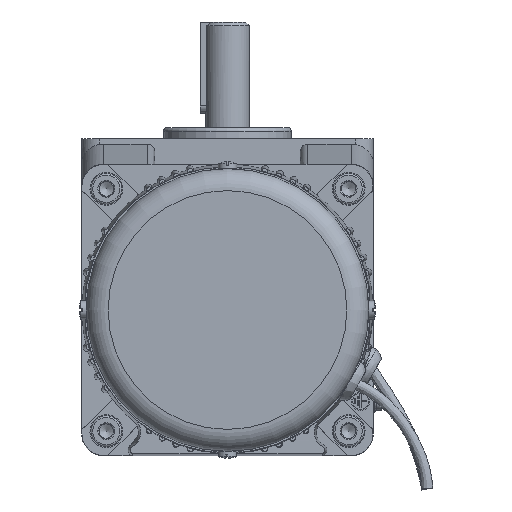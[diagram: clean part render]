
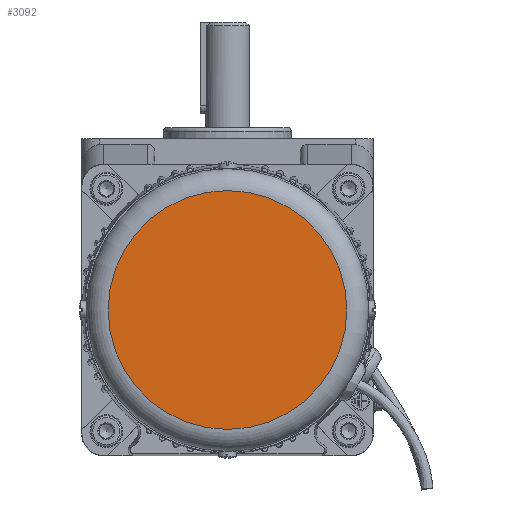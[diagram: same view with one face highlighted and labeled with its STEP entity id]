
A CAD part, left-side view. The second image highlights one B-rep face of the part: STEP entity #3092.
In plain terms, the highlighted planar face has unit normal (-1, 0, 0).
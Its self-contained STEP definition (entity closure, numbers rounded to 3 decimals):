
#3092=ADVANCED_FACE('',(#4493),#3844,.F.);
#3844=PLANE('',#16663);
#4493=FACE_OUTER_BOUND('',#5458,.T.);
#5458=EDGE_LOOP('',(#8312));
#8312=ORIENTED_EDGE('',*,*,#13171,.F.);
#11397=VERTEX_POINT('',#27274);
#13171=EDGE_CURVE('',#11397,#11397,#15637,.T.);
#15637=CIRCLE('',#16588,32.75);
#16588=AXIS2_PLACEMENT_3D('',#27273,#18692,#18693);
#16663=AXIS2_PLACEMENT_3D('',#32420,#18842,#18843);
#18692=DIRECTION('',(1.,0.,0.));
#18693=DIRECTION('',(0.,0.,-1.));
#18842=DIRECTION('',(1.,0.,0.));
#18843=DIRECTION('',(0.,0.,-1.));
#27273=CARTESIAN_POINT('',(-132.,40.,40.));
#27274=CARTESIAN_POINT('',(-132.,40.,7.25));
#32420=CARTESIAN_POINT('',(-132.,40.,40.));
